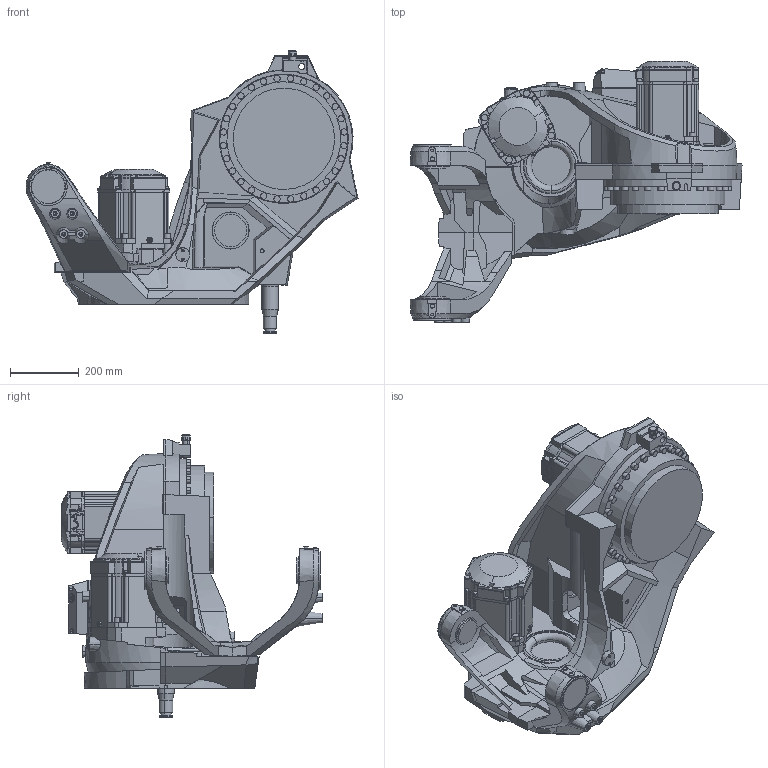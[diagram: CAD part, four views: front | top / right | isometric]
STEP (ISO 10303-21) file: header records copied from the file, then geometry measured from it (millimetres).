
FILE_DESCRIPTION (( 'STEP AP214' ), '1' );
FILE_NAME ('IRB6730-LID_190kg-310_OC_00_LINK01_CAD.step', '2026-05-26T09:16:20', ( '' ), ( '' ), 'SwSTEP 2.0', 'SolidWorks 2024', '' );
FILE_SCHEMA (( 'AUTOMOTIVE_DESIGN' ));
Length unit declared in the file: millimetre
Products named in the file (1): IRB6730-LID_190kg-310_OC_00_LINK01_CAD
Bounding box: 966.48 x 760 x 822 mm (x, y, z)
Volume: 74051084.7 mm3; surface area: 2928819.2 mm2
Topology: 1 solids, 7 shells, 2101 faces, 5441 edges, 3466 vertices
Faces by surface type: plane 973, cylinder 394, cone 382, bspline 196, torus 136, sphere 20
Entity records: 116168 total; most frequent: CARTESIAN_POINT 44398, ORIENTED_EDGE 10834, DIRECTION 9166, EDGE_CURVE 5417, VERTEX_POINT 3466, AXIS2_PLACEMENT_3D 3292, VECTOR 2582, LINE 2582
